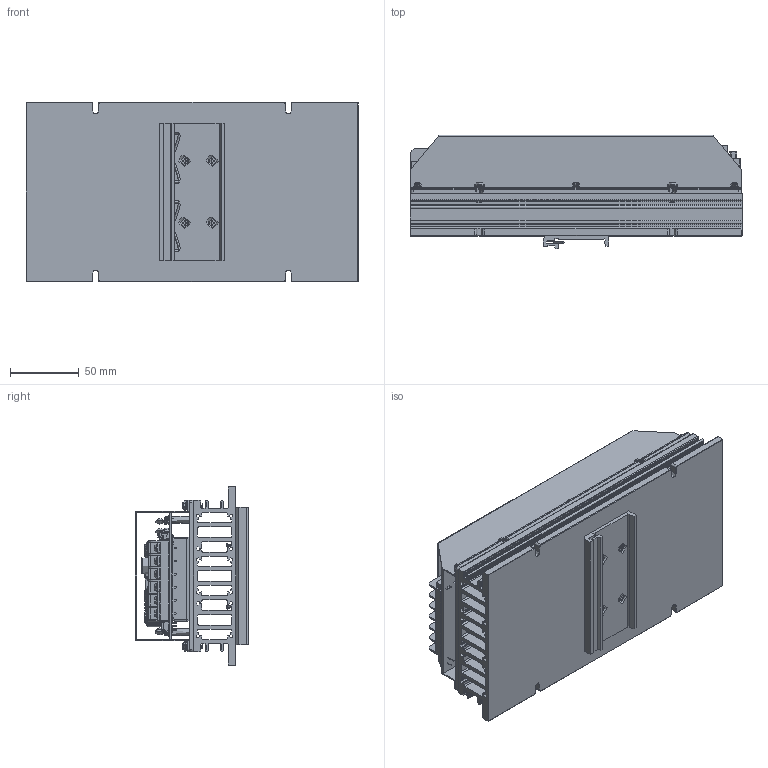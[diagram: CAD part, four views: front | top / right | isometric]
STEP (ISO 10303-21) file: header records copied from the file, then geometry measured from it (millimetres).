
FILE_DESCRIPTION (( 'STEP AP203' ), '1' );
FILE_NAME ('CFB750-300S CMFD HD 2024.11.14.STEP', '2024-11-14T05:47:34', ( '' ), ( '' ), 'SwSTEP 2.0', 'SolidWorks 2020', '' );
FILE_SCHEMA (( 'CONFIG_CONTROL_DESIGN' ));
Products named in the file (1): CFB750-300S CMFD HD 2024.11.14
Bounding box: 241 x 82.2 x 130.32 mm (x, y, z)
Topology: 20 solids, 37 shells, 5988 faces, 16991 edges, 11029 vertices
Faces by surface type: plane 3267, cylinder 1438, bspline 621, torus 449, cone 213
Full cylindrical faces by diameter (mm): 0.6 x18, 0.8 x4, 0.936 x224, 1 x42, 1.2 x6, 1.4 x8, 1.5 x14, 2 x16, 2.4 x8, 2.5 x30, 2.8 x14, 2.846 x14, 2.9 x8, 3 x7, 3.2 x21, 3.25 x1, 3.5 x8, 3.8 x4, 3.9 x67, 4.5 x4, 5 x8, 5.06 x4, 5.2 x5, 5.246 x14, 5.3 x8, 5.8 x18, 6 x7, 6.3 x6, 7 x4, 10.2 x1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
Entity records: 303654 total; most frequent: CARTESIAN_POINT 167168, ORIENTED_EDGE 30142, DIRECTION 24643, EDGE_CURVE 15071, VERTEX_POINT 10267, AXIS2_PLACEMENT_3D 8247, VECTOR 8149, LINE 8149
